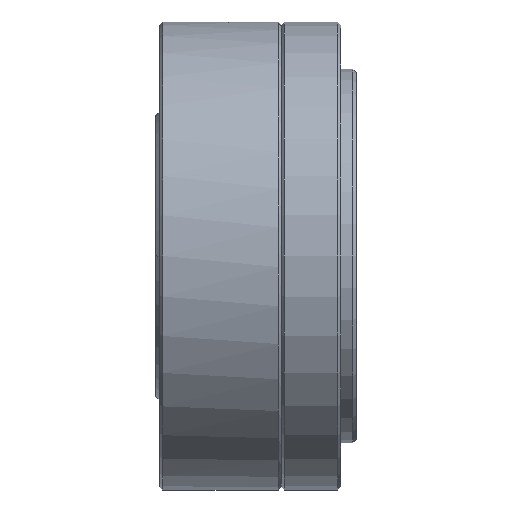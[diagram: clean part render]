
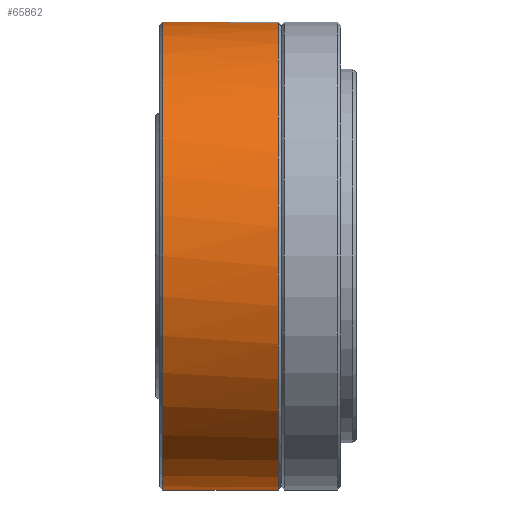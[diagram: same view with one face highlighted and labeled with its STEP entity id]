
A CAD part, front view. The second image highlights one B-rep face of the part: STEP entity #65862.
In plain terms, the highlighted cylindrical face has radius 31 mm (diameter 62 mm), a partial arc.
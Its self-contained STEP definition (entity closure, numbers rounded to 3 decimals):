
#4627 = ORIENTED_EDGE ( 'NONE', *, *, #89568, .F. ) ;
#5568 = DIRECTION ( 'NONE',  ( 1., 0., 0. ) ) ;
#6642 = AXIS2_PLACEMENT_3D ( 'NONE', #57129, #15599, #64094 ) ;
#9708 = VECTOR ( 'NONE', #69276, 1000. ) ;
#15599 = DIRECTION ( 'NONE',  ( -1., 0., 0. ) ) ;
#16012 = CARTESIAN_POINT ( 'NONE',  ( -12.033, 0., -31. ) ) ;
#18779 = FACE_OUTER_BOUND ( 'NONE', #50290, .T. ) ;
#20872 = VERTEX_POINT ( 'NONE', #26069 ) ;
#22960 = EDGE_CURVE ( 'NONE', #84493, #31674, #43987, .T. ) ;
#26069 = CARTESIAN_POINT ( 'NONE',  ( -9., 0., 31. ) ) ;
#27204 = DIRECTION ( 'NONE',  ( -1., 0., 0. ) ) ;
#28462 = AXIS2_PLACEMENT_3D ( 'NONE', #40859, #27204, #61777 ) ;
#28913 = CARTESIAN_POINT ( 'NONE',  ( -0.3, 0., 31. ) ) ;
#31613 = EDGE_CURVE ( 'NONE', #31674, #48932, #85678, .T. ) ;
#31674 = VERTEX_POINT ( 'NONE', #76866 ) ;
#32882 = AXIS2_PLACEMENT_3D ( 'NONE', #81392, #39826, #88388 ) ;
#34423 = LINE ( 'NONE', #56984, #46281 ) ;
#35051 = CYLINDRICAL_SURFACE ( 'NONE', #28462, 31. ) ;
#35623 = VERTEX_POINT ( 'NONE', #47341 ) ;
#36569 = AXIS2_PLACEMENT_3D ( 'NONE', #47091, #5568, #54081 ) ;
#37246 = DIRECTION ( 'NONE',  ( -1., 0., 0. ) ) ;
#39826 = DIRECTION ( 'NONE',  ( -1., 0., 0. ) ) ;
#40859 = CARTESIAN_POINT ( 'NONE',  ( -12.033, 0., 0. ) ) ;
#43987 = CIRCLE ( 'NONE', #36569, 31. ) ;
#46281 = VECTOR ( 'NONE', #49958, 1000. ) ;
#47091 = CARTESIAN_POINT ( 'NONE',  ( -0.3, 0., 0. ) ) ;
#47341 = CARTESIAN_POINT ( 'NONE',  ( 6.3, 0., -31. ) ) ;
#48932 = VERTEX_POINT ( 'NONE', #84273 ) ;
#49502 = EDGE_CURVE ( 'NONE', #35623, #48932, #70242, .T. ) ;
#49958 = DIRECTION ( 'NONE',  ( -1., 0., 0. ) ) ;
#50290 = EDGE_LOOP ( 'NONE', ( #79724, #62051, #60882, #66138, #53300, #4627 ) ) ;
#53300 = ORIENTED_EDGE ( 'NONE', *, *, #79550, .T. ) ;
#54081 = DIRECTION ( 'NONE',  ( 0., 0., -1. ) ) ;
#56984 = CARTESIAN_POINT ( 'NONE',  ( -12.033, 0., 31. ) ) ;
#57129 = CARTESIAN_POINT ( 'NONE',  ( 6.3, 0., 0. ) ) ;
#59689 = CIRCLE ( 'NONE', #32882, 31. ) ;
#60882 = ORIENTED_EDGE ( 'NONE', *, *, #31613, .F. ) ;
#61777 = DIRECTION ( 'NONE',  ( 0., 0., 1. ) ) ;
#62051 = ORIENTED_EDGE ( 'NONE', *, *, #49502, .T. ) ;
#62446 = VECTOR ( 'NONE', #37246, 1000. ) ;
#64094 = DIRECTION ( 'NONE',  ( 0., 0., 1. ) ) ;
#65862 = ADVANCED_FACE ( 'NONE', ( #18779 ), #35051, .T. ) ;
#66138 = ORIENTED_EDGE ( 'NONE', *, *, #22960, .F. ) ;
#69276 = DIRECTION ( 'NONE',  ( 1., 0., 0. ) ) ;
#70242 = CIRCLE ( 'NONE', #6642, 31. ) ;
#76276 = CARTESIAN_POINT ( 'NONE',  ( -0.3, -2.9, 30.864 ) ) ;
#76866 = CARTESIAN_POINT ( 'NONE',  ( -0.3, -2.9, 30.864 ) ) ;
#79411 = VERTEX_POINT ( 'NONE', #83135 ) ;
#79550 = EDGE_CURVE ( 'NONE', #84493, #20872, #34423, .T. ) ;
#79724 = ORIENTED_EDGE ( 'NONE', *, *, #81049, .F. ) ;
#80909 = LINE ( 'NONE', #16012, #62446 ) ;
#81049 = EDGE_CURVE ( 'NONE', #35623, #79411, #80909, .T. ) ;
#81392 = CARTESIAN_POINT ( 'NONE',  ( -9., 0., 0. ) ) ;
#83135 = CARTESIAN_POINT ( 'NONE',  ( -9., 0., -31. ) ) ;
#84273 = CARTESIAN_POINT ( 'NONE',  ( 6.3, -2.9, 30.864 ) ) ;
#84493 = VERTEX_POINT ( 'NONE', #28913 ) ;
#85678 = LINE ( 'NONE', #76276, #9708 ) ;
#88388 = DIRECTION ( 'NONE',  ( 0., 0., 1. ) ) ;
#89568 = EDGE_CURVE ( 'NONE', #79411, #20872, #59689, .T. ) ;
